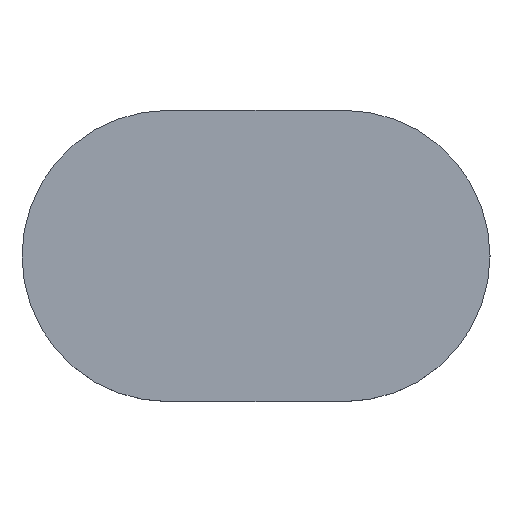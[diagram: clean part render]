
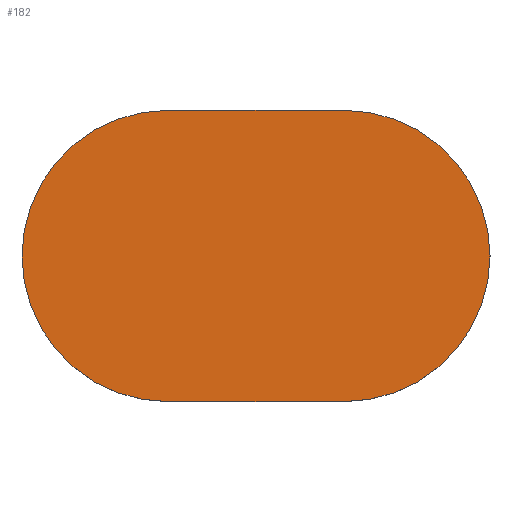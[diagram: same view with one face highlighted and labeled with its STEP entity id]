
A CAD part, top view. The second image highlights one B-rep face of the part: STEP entity #182.
In plain terms, the highlighted planar face has unit normal (0, 0, 1).
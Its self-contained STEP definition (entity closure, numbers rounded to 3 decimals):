
#2 = CARTESIAN_POINT ( 'NONE',  ( 8.5, 0., 2.4 ) ) ;
#21 = VECTOR ( 'NONE', #141, 1000. ) ;
#22 = PLANE ( 'NONE',  #29 ) ;
#24 = DIRECTION ( 'NONE',  ( 0., 0., 1. ) ) ;
#26 = CIRCLE ( 'NONE', #144, 14. ) ;
#29 = AXIS2_PLACEMENT_3D ( 'NONE', #253, #122, #197 ) ;
#32 = EDGE_CURVE ( 'NONE', #130, #213, #26, .T. ) ;
#35 = ORIENTED_EDGE ( 'NONE', *, *, #233, .T. ) ;
#45 = VECTOR ( 'NONE', #224, 1000. ) ;
#55 = ORIENTED_EDGE ( 'NONE', *, *, #32, .T. ) ;
#61 = LINE ( 'NONE', #162, #21 ) ;
#67 = EDGE_CURVE ( 'NONE', #133, #130, #232, .T. ) ;
#82 = ORIENTED_EDGE ( 'NONE', *, *, #67, .T. ) ;
#84 = CARTESIAN_POINT ( 'NONE',  ( -8.5, 14., 2.4 ) ) ;
#103 = CARTESIAN_POINT ( 'NONE',  ( 8.5, -14., 2.4 ) ) ;
#107 = CARTESIAN_POINT ( 'NONE',  ( -8.5, -14., 2.4 ) ) ;
#113 = EDGE_CURVE ( 'NONE', #213, #174, #61, .T. ) ;
#122 = DIRECTION ( 'NONE',  ( 0., 0., 1. ) ) ;
#125 = DIRECTION ( 'NONE',  ( 1., 0., 0. ) ) ;
#130 = VERTEX_POINT ( 'NONE', #215 ) ;
#133 = VERTEX_POINT ( 'NONE', #177 ) ;
#141 = DIRECTION ( 'NONE',  ( 1., 0., 0. ) ) ;
#144 = AXIS2_PLACEMENT_3D ( 'NONE', #159, #24, #202 ) ;
#159 = CARTESIAN_POINT ( 'NONE',  ( -8.5, 0., 2.4 ) ) ;
#162 = CARTESIAN_POINT ( 'NONE',  ( -8.5, -14., 2.4 ) ) ;
#174 = VERTEX_POINT ( 'NONE', #103 ) ;
#177 = CARTESIAN_POINT ( 'NONE',  ( 8.5, 14., 2.4 ) ) ;
#182 = ADVANCED_FACE ( 'NONE', ( #220 ), #22, .T. ) ;
#193 = ORIENTED_EDGE ( 'NONE', *, *, #113, .T. ) ;
#197 = DIRECTION ( 'NONE',  ( 1., 0., 0. ) ) ;
#202 = DIRECTION ( 'NONE',  ( 1., 0., 0. ) ) ;
#213 = VERTEX_POINT ( 'NONE', #107 ) ;
#215 = CARTESIAN_POINT ( 'NONE',  ( -8.5, 14., 2.4 ) ) ;
#217 = CIRCLE ( 'NONE', #243, 14. ) ;
#220 = FACE_OUTER_BOUND ( 'NONE', #254, .T. ) ;
#224 = DIRECTION ( 'NONE',  ( -1., 0., 0. ) ) ;
#232 = LINE ( 'NONE', #84, #45 ) ;
#233 = EDGE_CURVE ( 'NONE', #174, #133, #217, .T. ) ;
#240 = DIRECTION ( 'NONE',  ( 0., 0., 1. ) ) ;
#243 = AXIS2_PLACEMENT_3D ( 'NONE', #2, #240, #125 ) ;
#253 = CARTESIAN_POINT ( 'NONE',  ( -8.5, 0., 2.4 ) ) ;
#254 = EDGE_LOOP ( 'NONE', ( #55, #193, #35, #82 ) ) ;
